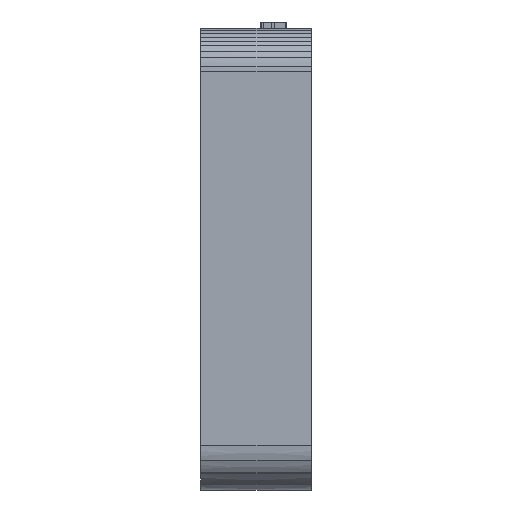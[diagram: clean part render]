
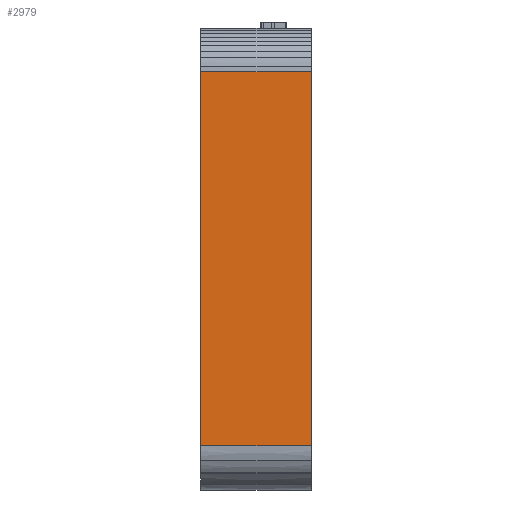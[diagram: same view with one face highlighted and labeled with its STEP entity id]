
A CAD part, left-side view. The second image highlights one B-rep face of the part: STEP entity #2979.
In plain terms, the highlighted planar face has unit normal (-1, 0, 0).
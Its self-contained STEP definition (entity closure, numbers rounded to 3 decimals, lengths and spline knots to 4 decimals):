
#2926 = EDGE_LOOP ( 'NONE', ( #2928, #2933, #2939, #2943 ) ) ;
#2928 = ORIENTED_EDGE ( 'NONE', *, *, #2930, .F. ) ;
#2930 = EDGE_CURVE ( 'NONE', #2931, #2967, #20456, .T. ) ;
#2931 = VERTEX_POINT ( 'NONE', #20452 ) ;
#2933 = ORIENTED_EDGE ( 'NONE', *, *, #2935, .F. ) ;
#2935 = EDGE_CURVE ( 'NONE', #2936, #2931, #20510, .T. ) ;
#2936 = VERTEX_POINT ( 'NONE', #20506 ) ;
#2939 = ORIENTED_EDGE ( 'NONE', *, *, #2941, .T. ) ;
#2941 = EDGE_CURVE ( 'NONE', #2936, #2972, #20499, .T. ) ;
#2943 = ORIENTED_EDGE ( 'NONE', *, *, #2971, .T. ) ;
#2967 = VERTEX_POINT ( 'NONE', #20609 ) ;
#2971 = EDGE_CURVE ( 'NONE', #2972, #2967, #20663, .T. ) ;
#2972 = VERTEX_POINT ( 'NONE', #20659 ) ;
#2979 = ADVANCED_FACE ( 'NONE', ( #20656 ), #20644, .T. ) ;
#20452 = CARTESIAN_POINT ( 'NONE',  ( -9.2095, 0., 3.8155 ) ) ;
#20453 = DIRECTION ( 'NONE',  ( 0., 0., -1. ) ) ;
#20454 = VECTOR ( 'NONE', #20453, 39.3701 ) ;
#20455 = CARTESIAN_POINT ( 'NONE',  ( -9.2095, 0., 3.8155 ) ) ;
#20456 = LINE ( 'NONE', #20455, #20454 ) ;
#20496 = DIRECTION ( 'NONE',  ( 0., 0., -1. ) ) ;
#20497 = VECTOR ( 'NONE', #20496, 39.3701 ) ;
#20498 = CARTESIAN_POINT ( 'NONE',  ( -9.2095, 2.25, 3.8155 ) ) ;
#20499 = LINE ( 'NONE', #20498, #20497 ) ;
#20506 = CARTESIAN_POINT ( 'NONE',  ( -9.2095, 2.25, 3.8155 ) ) ;
#20507 = DIRECTION ( 'NONE',  ( 0., -1., 0. ) ) ;
#20508 = VECTOR ( 'NONE', #20507, 39.3701 ) ;
#20509 = CARTESIAN_POINT ( 'NONE',  ( -9.2095, 2.25, 3.8155 ) ) ;
#20510 = LINE ( 'NONE', #20509, #20508 ) ;
#20609 = CARTESIAN_POINT ( 'NONE',  ( -9.2095, 0., -3.8112 ) ) ;
#20640 = DIRECTION ( 'NONE',  ( 0., 0., 1. ) ) ;
#20641 = DIRECTION ( 'NONE',  ( -1., 0., 0. ) ) ;
#20642 = CARTESIAN_POINT ( 'NONE',  ( -9.2095, 2.25, 3.8155 ) ) ;
#20643 = AXIS2_PLACEMENT_3D ( 'NONE', #20642, #20641, #20640 ) ;
#20644 = PLANE ( 'NONE',  #20643 ) ;
#20656 = FACE_OUTER_BOUND ( 'NONE', #2926, .T. ) ;
#20659 = CARTESIAN_POINT ( 'NONE',  ( -9.2095, 2.25, -3.8112 ) ) ;
#20660 = DIRECTION ( 'NONE',  ( 0., -1., 0. ) ) ;
#20661 = VECTOR ( 'NONE', #20660, 39.3701 ) ;
#20662 = CARTESIAN_POINT ( 'NONE',  ( -9.2095, 2.25, -3.8112 ) ) ;
#20663 = LINE ( 'NONE', #20662, #20661 ) ;
